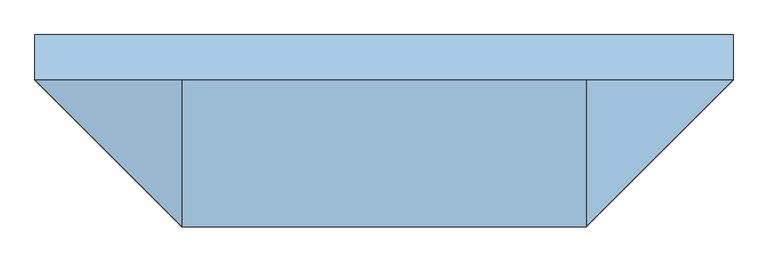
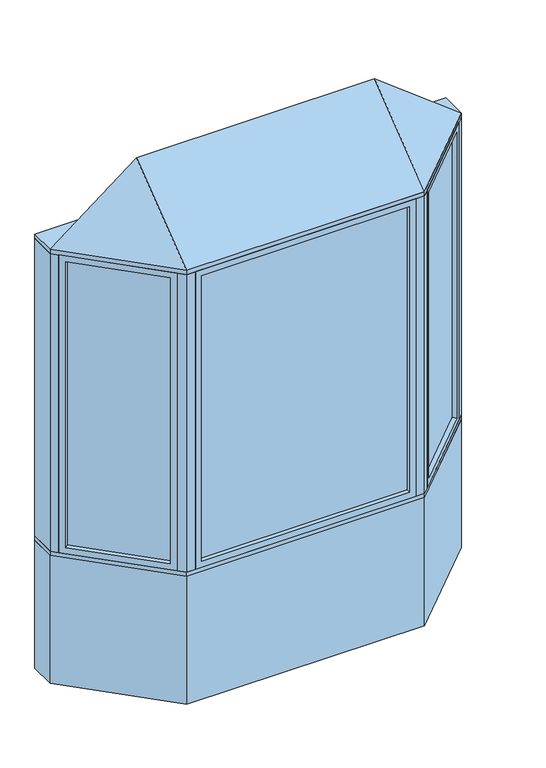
"""IFC4 building model written with IfcOpenShell, lengths in millimetres: window geometry, Pollard_Windows_Tudor Casement Bows and Bays : AML-BAY 45 AFR0618-12-600."""

from ifc_helpers import new_model, si_unit, frame, origin, origin_with_axes, place, context, project, spatial, polyline, outline, extrude, faceted_brep, source, transform, mapped, element, save


def window_b4091702(model_context):
    return source(origin(), model_context, "Body", "SolidModel", [
        extrude(outline(polyline([(1110.5964271, -104.763169), (714.974814, -500.3847822), (711.3827115, -496.7926797), (1107.0043247, -101.1710666), (1110.5964271, -104.763169)])), frame((0.0, 0.0, 823.1628), z_axis=(0.0, 0.0, 1.0), x_axis=(1.0, 0.0, 0.0)), (0.0, 0.0, 1.0), 1753.6704),
        faceted_brep([(1101.616171, -113.7434252, 835.8628), (1119.5766833, -131.7039374, 835.8628), (1119.5766833, -131.7039374, 2564.1332), (1101.616171, -113.7434252, 2564.1332), (1107.0043247, -101.1710666, 823.1628), (1110.5964271, -104.763169, 823.1628), (1110.5964271, -104.763169, 2576.8332), (1107.0043247, -101.1710666, 2576.8332), (1080.0635563, -92.1908105, 835.8628), (1098.0240686, -110.1513227, 835.8628), (1098.0240686, -110.1513227, 2564.1332), (1080.0635563, -92.1908105, 2564.1332), (1144.9369265, -106.3436941, 799.998), (1105.4237996, -66.8305672, 799.998), (1105.4237996, -66.8305672, 2599.998), (1144.9369265, -106.3436941, 2599.998), (741.9155823, -509.3650383, 2564.1332), (723.9550701, -491.4045261, 2564.1332), (714.974814, -500.3847822, 2576.8332), (711.3827115, -496.7926797, 2576.8332), (720.3629677, -487.8124236, 2564.1332), (702.4024554, -469.8519114, 2564.1332), (677.0422121, -495.2121547, 2599.998), (716.5553391, -534.7252816, 2599.998), (741.9155823, -509.3650383, 835.8628), (723.9550701, -491.4045261, 835.8628), (714.974814, -500.3847822, 823.1628), (711.3827115, -496.7926797, 823.1628), (720.3629677, -487.8124236, 835.8628), (702.4024554, -469.8519114, 835.8628), (677.0422121, -495.2121547, 799.998), (716.5553391, -534.7252816, 799.998)], [[[0, 1, 2, 3]], [[4, 5, 6, 7]], [[8, 9, 10, 11]], [[12, 13, 14, 15]], [[3, 2, 16, 17]], [[7, 6, 18, 19]], [[11, 10, 20, 21]], [[15, 14, 22, 23]], [[17, 16, 24, 25]], [[19, 18, 26, 27]], [[21, 20, 28, 29]], [[23, 22, 30, 31]], [[25, 24, 1, 0]], [[5, 26, 18, 6], [3, 17, 25, 0]], [[27, 26, 5, 4]], [[7, 19, 27, 4], [9, 28, 20, 10]], [[29, 28, 9, 8]], [[13, 30, 22, 14], [11, 21, 29, 8]], [[31, 30, 13, 12]], [[15, 23, 31, 12], [1, 24, 16, 2]]]),
        extrude(outline(polyline([(-714.974814, -500.3847822), (-1110.5964271, -104.763169), (-1107.0043247, -101.1710666), (-711.3827115, -496.7926797), (-714.974814, -500.3847822)])), frame((0.0, 0.0, 823.1628), z_axis=(0.0, 0.0, 1.0), x_axis=(1.0, 0.0, 0.0)), (0.0, 0.0, 1.0), 1753.6704),
        faceted_brep([(-720.3629677, -487.8124236, 2564.1332), (-702.4024554, -469.8519114, 2564.1332), (-702.4024554, -469.8519114, 835.8628), (-720.3629677, -487.8124236, 835.8628), (-714.974814, -500.3847822, 2576.8332), (-711.3827115, -496.7926797, 2576.8332), (-711.3827115, -496.7926797, 823.1628), (-714.974814, -500.3847822, 823.1628), (-741.9155823, -509.3650383, 2564.1332), (-723.9550701, -491.4045261, 2564.1332), (-723.9550701, -491.4045261, 835.8628), (-741.9155823, -509.3650383, 835.8628), (-677.0422121, -495.2121547, 2599.998), (-716.5553391, -534.7252816, 2599.998), (-716.5553391, -534.7252816, 799.998), (-677.0422121, -495.2121547, 799.998), (-1080.0635563, -92.1908105, 835.8628), (-1098.0240686, -110.1513227, 835.8628), (-1107.0043247, -101.1710666, 823.1628), (-1110.5964271, -104.763169, 823.1628), (-1101.616171, -113.7434252, 835.8628), (-1119.5766833, -131.7039374, 835.8628), (-1144.9369265, -106.3436941, 799.998), (-1105.4237996, -66.8305672, 799.998), (-1080.0635563, -92.1908105, 2564.1332), (-1098.0240686, -110.1513227, 2564.1332), (-1107.0043247, -101.1710666, 2576.8332), (-1110.5964271, -104.763169, 2576.8332), (-1101.616171, -113.7434252, 2564.1332), (-1119.5766833, -131.7039374, 2564.1332), (-1144.9369265, -106.3436941, 2599.998), (-1105.4237996, -66.8305672, 2599.998)], [[[0, 1, 2, 3]], [[4, 5, 6, 7]], [[8, 9, 10, 11]], [[12, 13, 14, 15]], [[3, 2, 16, 17]], [[7, 6, 18, 19]], [[11, 10, 20, 21]], [[15, 14, 22, 23]], [[17, 16, 24, 25]], [[19, 18, 26, 27]], [[21, 20, 28, 29]], [[23, 22, 30, 31]], [[15, 23, 31, 12], [1, 24, 16, 2]], [[25, 24, 1, 0]], [[5, 26, 18, 6], [3, 17, 25, 0]], [[27, 26, 5, 4]], [[7, 19, 27, 4], [9, 28, 20, 10]], [[29, 28, 9, 8]], [[13, 30, 22, 14], [11, 21, 29, 8]], [[31, 30, 13, 12]]]),
        extrude(outline(polyline([(608.0352, -544.6806207), (-608.0352, -544.6806207), (-608.0352, -539.6006207), (608.0352, -539.6006207), (608.0352, -544.6806207)])), frame((0.0, 0.0, 823.1628), z_axis=(0.0, 0.0, 1.0), x_axis=(1.0, 0.0, 0.0)), (0.0, 0.0, 1.0), 1753.6704),
        faceted_brep([(595.3352, -544.6806207, 835.8628), (595.3352, -570.0806207, 835.8628), (595.3352, -570.0806207, 2564.1332), (595.3352, -544.6806207, 2564.1332), (608.0352, -539.6006207, 823.1628), (608.0352, -544.6806207, 823.1628), (608.0352, -544.6806207, 2576.8332), (608.0352, -539.6006207, 2576.8332), (595.3352, -514.2006207, 835.8628), (595.3352, -539.6006207, 835.8628), (595.3352, -539.6006207, 2564.1332), (595.3352, -514.2006207, 2564.1332), (631.2, -570.0806207, 799.998), (631.2, -514.2006207, 799.998), (631.2, -514.2006207, 2599.998), (631.2, -570.0806207, 2599.998), (-595.3352, -570.0806207, 2564.1332), (-595.3352, -544.6806207, 2564.1332), (-608.0352, -544.6806207, 2576.8332), (-608.0352, -539.6006207, 2576.8332), (-595.3352, -539.6006207, 2564.1332), (-595.3352, -514.2006207, 2564.1332), (-631.2, -514.2006207, 2599.998), (-631.2, -570.0806207, 2599.998), (-595.3352, -570.0806207, 835.8628), (-595.3352, -544.6806207, 835.8628), (-608.0352, -544.6806207, 823.1628), (-608.0352, -539.6006207, 823.1628), (-595.3352, -539.6006207, 835.8628), (-595.3352, -514.2006207, 835.8628), (-631.2, -514.2006207, 799.998), (-631.2, -570.0806207, 799.998)], [[[0, 1, 2, 3]], [[4, 5, 6, 7]], [[8, 9, 10, 11]], [[12, 13, 14, 15]], [[3, 2, 16, 17]], [[7, 6, 18, 19]], [[11, 10, 20, 21]], [[15, 14, 22, 23]], [[17, 16, 24, 25]], [[19, 18, 26, 27]], [[21, 20, 28, 29]], [[23, 22, 30, 31]], [[15, 23, 31, 12], [1, 24, 16, 2]], [[25, 24, 1, 0]], [[5, 26, 18, 6], [3, 17, 25, 0]], [[27, 26, 5, 4]], [[7, 19, 27, 4], [9, 28, 20, 10]], [[29, 28, 9, 8]], [[13, 30, 22, 14], [11, 21, 29, 8]], [[31, 30, 13, 12]]]),
        faceted_brep([(1176.5, -74.7806207, 2625.398), (681.2, -570.0806207, 2625.398), (-681.2, -570.0806207, 2625.398), (-1176.5, -74.7806207, 2625.398), (-681.2, -74.7806207, 3006.398), (681.2, -74.7806207, 3006.398)], [[[0, 1, 2, 3]], [[3, 2, 4]], [[2, 1, 5, 4]], [[1, 0, 5]], [[0, 3, 4, 5]]]),
        extrude(outline(polyline([(-1176.5, 77.6193793), (1176.5, 77.6193793), (1176.5, -74.7806207), (681.2, -570.0806207), (-681.2, -570.0806207), (-1176.5, -74.7806207), (-1176.5, 77.6193793)])), frame((0.0, 0.0, 2599.998), z_axis=(0.0, 0.0, 1.0), x_axis=(1.0, 0.0, 0.0)), (0.0, 0.0, 1.0), 25.4),
        extrude(outline(polyline([(-1176.5, -74.7806207), (-1176.5, 77.6193793), (-1113.3738531, 77.6193793), (-1113.3738531, -74.7806207), (-1144.9369265, -106.3436941), (-1176.5, -74.7806207)])), frame((0.0, 0.0, 799.998), z_axis=(0.0, 0.0, 1.0), x_axis=(1.0, 0.0, 0.0)), (0.0, 0.0, 1.0), 1800.0),
        extrude(outline(polyline([(1176.5, 77.6193793), (1176.5, -74.7806207), (1144.9369265, -106.3436941), (1113.3738531, -74.7806207), (1113.3738531, 77.6193793), (1176.5, 77.6193793)])), frame((0.0, 0.0, 799.998), z_axis=(0.0, 0.0, 1.0), x_axis=(1.0, 0.0, 0.0)), (0.0, 0.0, 1.0), 1800.0),
        extrude(outline(polyline([(681.2, -570.0806207), (631.2, -570.0806207), (631.2, -520.0806207), (660.4893219, -520.0806207), (681.2, -499.3699425), (716.5553391, -534.7252816), (681.2, -570.0806207)])), frame((0.0, 0.0, 799.998), z_axis=(0.0, 0.0, 1.0), x_axis=(1.0, 0.0, 0.0)), (0.0, 0.0, 1.0), 1800.0),
        extrude(outline(polyline([(-681.2, -570.0806207), (-716.5553391, -534.7252816), (-681.2, -499.3699425), (-660.4893219, -520.0806207), (-631.2, -520.0806207), (-631.2, -570.0806207), (-681.2, -570.0806207)])), frame((0.0, 0.0, 799.998), z_axis=(0.0, 0.0, 1.0), x_axis=(1.0, 0.0, 0.0)), (0.0, 0.0, 1.0), 1800.0),
        extrude(outline(polyline([(-681.2, -570.0806207), (-1176.5, -74.7806207), (-1176.5, 77.6193793), (-1113.3738531, 77.6193793), (-618.0738531, -417.6806207), (618.0738531, -417.6806207), (1113.3738531, 77.6193793), (1176.5, 77.6193793), (1176.5, -74.7806207), (681.2, -570.0806207), (-681.2, -570.0806207)])), frame((0.0, 0.0, 774.598), z_axis=(0.0, 0.0, 1.0), x_axis=(1.0, 0.0, 0.0)), (0.0, 0.0, 1.0), 25.4),
        extrude(outline(polyline([(-1176.5, -74.7806207), (-1176.5, 77.6193793), (-1113.3738531, 77.6193793), (-618.0738531, -417.6806207), (618.0738531, -417.6806207), (1113.3738531, 77.6193793), (1176.5, 77.6193793), (1176.5, -74.7806207), (681.2, -570.0806207), (-681.2, -570.0806207), (-1176.5, -74.7806207)])), origin_with_axes(), (0.0, 0.0, 1.0), 774.598),
    ])


if __name__ == "__main__":
    model = new_model("IFC4")
    model_context = context("Model", 3, world=origin())
    ifc_project = project(units=[si_unit("LENGTHUNIT", "METRE", prefix="MILLI")], contexts=[model_context])
    site = spatial("IfcSite", under=ifc_project)
    building = spatial("IfcBuilding", under=site)
    placement = place(None, origin())
    window_shape = window_b4091702(model_context)
    element("IfcWindow", 1, ObjectType="Pollard_Windows_Tudor Casement Bows and Bays : AML-BAY 45 AFR0618-12-600", at=placement, inside=building, context=model_context, shape_type="MappedRepresentation", body=[
        mapped(window_shape, transform((0.0, 0.0, 0.0), x_axis=(1.0, 0.0, 0.0), y_axis=(0.0, 1.0, 0.0), z_axis=(0.0, 0.0, 1.0))),
    ])
    save(model, "model.ifc")
